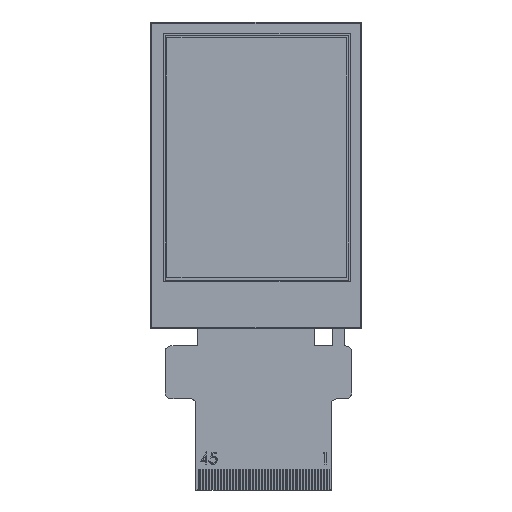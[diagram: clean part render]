
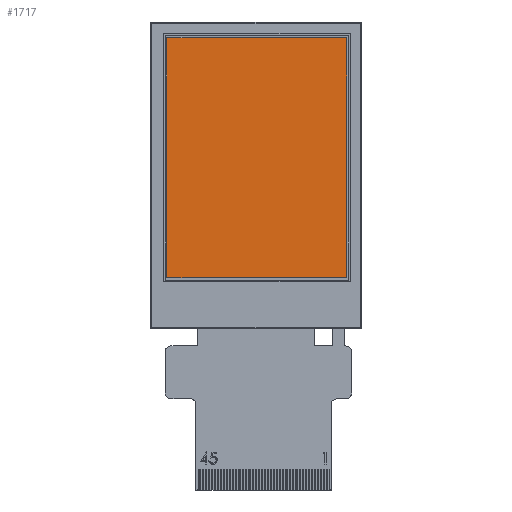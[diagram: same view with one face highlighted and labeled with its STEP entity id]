
A CAD part, top view. The second image highlights one B-rep face of the part: STEP entity #1717.
In plain terms, the highlighted planar face has unit normal (0, 0, 1).
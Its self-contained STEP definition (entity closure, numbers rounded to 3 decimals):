
#714 = CARTESIAN_POINT ( 'NONE',  ( 33.35, 0., 3.85 ) ) ;
#1668 = VECTOR ( 'NONE', #7582, 1000. ) ;
#1717 = ADVANCED_FACE ( 'NONE', ( #8881 ), #3417, .T. ) ;
#1748 = AXIS2_PLACEMENT_3D ( 'NONE', #8339, #6795, #7563 ) ;
#1825 = EDGE_CURVE ( 'NONE', #7469, #6015, #5787, .T. ) ;
#2036 = VECTOR ( 'NONE', #5006, 1000. ) ;
#2543 = VECTOR ( 'NONE', #8236, 1000. ) ;
#3319 = LINE ( 'NONE', #5544, #2543 ) ;
#3417 = PLANE ( 'NONE',  #1748 ) ;
#3733 = VERTEX_POINT ( 'NONE', #8856 ) ;
#3767 = EDGE_CURVE ( 'NONE', #6015, #6201, #4800, .T. ) ;
#3977 = CARTESIAN_POINT ( 'NONE',  ( 2.75, -43.5, 3.85 ) ) ;
#4115 = CARTESIAN_POINT ( 'NONE',  ( 2.75, 0., 3.85 ) ) ;
#4290 = EDGE_CURVE ( 'NONE', #3733, #7469, #6874, .T. ) ;
#4800 = LINE ( 'NONE', #4115, #1668 ) ;
#5006 = DIRECTION ( 'NONE',  ( -1., 0., 0. ) ) ;
#5411 = DIRECTION ( 'NONE',  ( 0., -1., 0. ) ) ;
#5513 = ORIENTED_EDGE ( 'NONE', *, *, #3767, .F. ) ;
#5544 = CARTESIAN_POINT ( 'NONE',  ( 0., -2.7, 3.85 ) ) ;
#5787 = LINE ( 'NONE', #7066, #2036 ) ;
#6015 = VERTEX_POINT ( 'NONE', #3977 ) ;
#6201 = VERTEX_POINT ( 'NONE', #7879 ) ;
#6211 = ORIENTED_EDGE ( 'NONE', *, *, #4290, .F. ) ;
#6795 = DIRECTION ( 'NONE',  ( 0., 0., 1. ) ) ;
#6819 = ORIENTED_EDGE ( 'NONE', *, *, #8251, .F. ) ;
#6874 = LINE ( 'NONE', #714, #7957 ) ;
#7066 = CARTESIAN_POINT ( 'NONE',  ( 0., -43.5, 3.85 ) ) ;
#7469 = VERTEX_POINT ( 'NONE', #8775 ) ;
#7563 = DIRECTION ( 'NONE',  ( 1., 0., 0. ) ) ;
#7582 = DIRECTION ( 'NONE',  ( 0., 1., 0. ) ) ;
#7879 = CARTESIAN_POINT ( 'NONE',  ( 2.75, -2.7, 3.85 ) ) ;
#7957 = VECTOR ( 'NONE', #5411, 1000. ) ;
#8236 = DIRECTION ( 'NONE',  ( 1., 0., 0. ) ) ;
#8251 = EDGE_CURVE ( 'NONE', #6201, #3733, #3319, .T. ) ;
#8339 = CARTESIAN_POINT ( 'NONE',  ( 0., 0., 3.85 ) ) ;
#8630 = EDGE_LOOP ( 'NONE', ( #5513, #8701, #6211, #6819 ) ) ;
#8701 = ORIENTED_EDGE ( 'NONE', *, *, #1825, .F. ) ;
#8775 = CARTESIAN_POINT ( 'NONE',  ( 33.35, -43.5, 3.85 ) ) ;
#8856 = CARTESIAN_POINT ( 'NONE',  ( 33.35, -2.7, 3.85 ) ) ;
#8881 = FACE_OUTER_BOUND ( 'NONE', #8630, .T. ) ;
